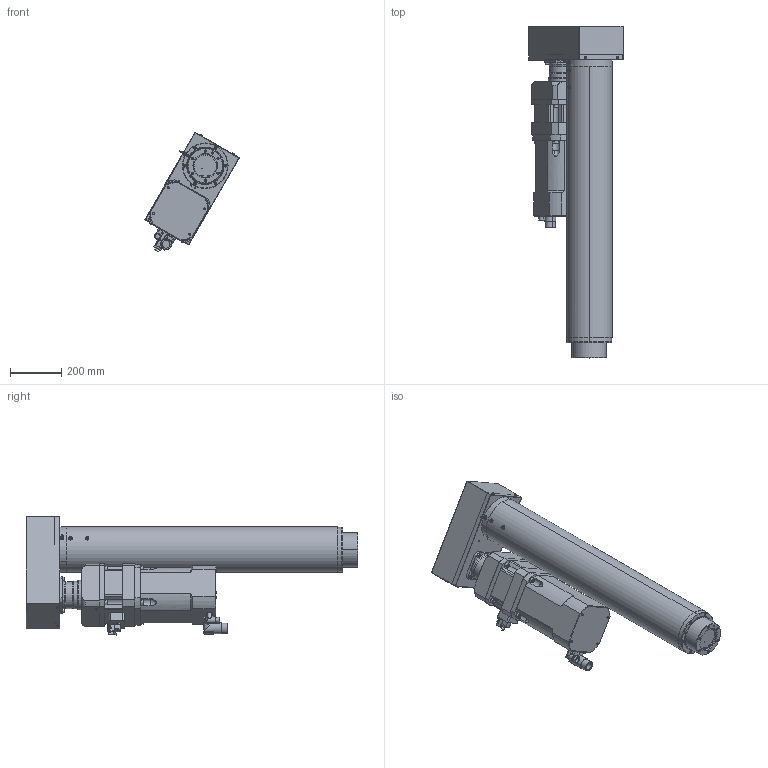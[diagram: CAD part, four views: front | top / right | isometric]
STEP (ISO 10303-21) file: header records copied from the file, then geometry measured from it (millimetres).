
FILE_DESCRIPTION (( 'STEP AP214' ), '1' );
FILE_NAME ('RLWPK060D-075-025SG0.STEP', '2023-04-06T05:42:47', ( '' ), ( '' ), 'SwSTEP 2.0', 'SolidWorks 2021', '' );
FILE_SCHEMA (( 'AUTOMOTIVE_DESIGN' ));
Length unit declared in the file: millimetre
Products named in the file (1): RLWPK060D-075-025SG0
Bounding box: 368.79 x 1297.5 x 465.79 mm (x, y, z)
Volume: 39598520.9 mm3; surface area: 3441700.5 mm2
Topology: 36 solids, 36 shells, 1545 faces, 3665 edges, 2208 vertices
Faces by surface type: plane 587, cylinder 584, cone 246, torus 96, bspline 30, sphere 2
Entity records: 62860 total; most frequent: CARTESIAN_POINT 9556, DIRECTION 7983, ORIENTED_EDGE 7026, EDGE_CURVE 3513, AXIS2_PLACEMENT_3D 3096, VERTEX_POINT 2208, EDGE_LOOP 1819, VECTOR 1791
